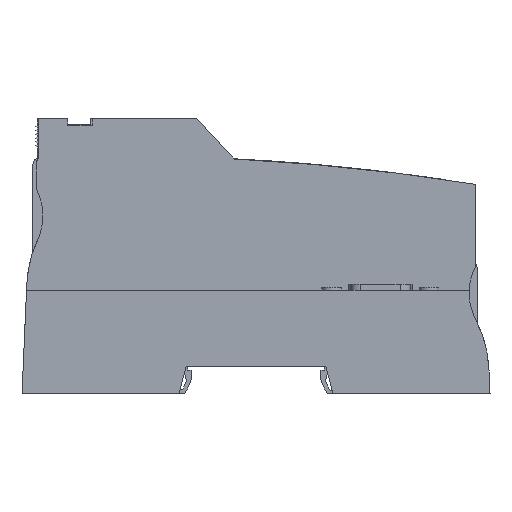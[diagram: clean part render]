
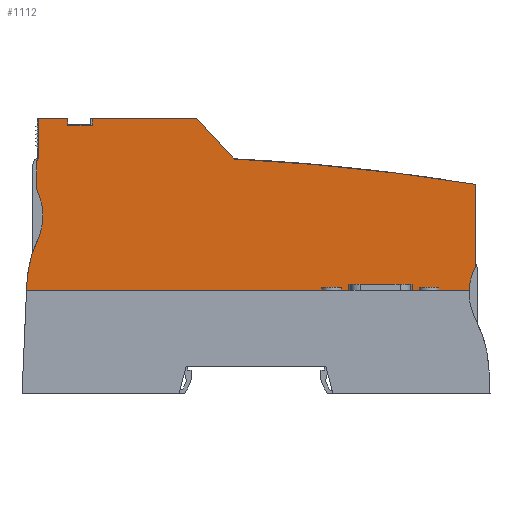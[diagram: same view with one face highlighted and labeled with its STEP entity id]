
A CAD part, left-side view. The second image highlights one B-rep face of the part: STEP entity #1112.
In plain terms, the highlighted planar face has unit normal (-1, 0, 0) as drawn and (0, 0, -1) by its records, which use the part's own axes.
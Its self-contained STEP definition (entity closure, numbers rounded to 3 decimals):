
#1112 = ADVANCED_FACE( 'NONE', ( #2251 ), #2252, .T. );
#2251 = FACE_OUTER_BOUND( '', #3763, .T. );
#2252 = PLANE( '', #3764 );
#3763 = EDGE_LOOP( '', ( #7078, #7079, #7080, #7081, #7082, #7083, #7084, #7085, #7086, #7087, #7088, #7089, #7090, #7091, #7092, #7093 ) );
#3764 = AXIS2_PLACEMENT_3D( '', #7094, #7095, #7096 );
#7078 = ORIENTED_EDGE( '', *, *, #7409, .T. );
#7079 = ORIENTED_EDGE( '', *, *, #8380, .F. );
#7080 = ORIENTED_EDGE( '', *, *, #7833, .T. );
#7081 = ORIENTED_EDGE( '', *, *, #8081, .T. );
#7082 = ORIENTED_EDGE( '', *, *, #8285, .T. );
#7083 = ORIENTED_EDGE( '', *, *, #8296, .T. );
#7084 = ORIENTED_EDGE( '', *, *, #7816, .T. );
#7085 = ORIENTED_EDGE( '', *, *, #7830, .T. );
#7086 = ORIENTED_EDGE( '', *, *, #7433, .F. );
#7087 = ORIENTED_EDGE( '', *, *, #8251, .T. );
#7088 = ORIENTED_EDGE( '', *, *, #7122, .F. );
#7089 = ORIENTED_EDGE( '', *, *, #7749, .T. );
#7090 = ORIENTED_EDGE( '', *, *, #8144, .T. );
#7091 = ORIENTED_EDGE( '', *, *, #7344, .F. );
#7092 = ORIENTED_EDGE( '', *, *, #8362, .T. );
#7093 = ORIENTED_EDGE( '', *, *, #7695, .T. );
#7094 = CARTESIAN_POINT( '', ( 108.2, 57.02, -46.8 ) );
#7095 = DIRECTION( '', ( 0., 0., -1. ) );
#7096 = DIRECTION( '', ( 0., -1., 0. ) );
#7122 = EDGE_CURVE( 'NONE', #8455, #8457, #8458, .T. );
#7344 = EDGE_CURVE( 'NONE', #8870, #8872, #8873, .T. );
#7409 = EDGE_CURVE( 'NONE', #8983, #8981, #8984, .T. );
#7433 = EDGE_CURVE( 'NONE', #9024, #9026, #9027, .T. );
#7695 = EDGE_CURVE( 'NONE', #9452, #8983, #9453, .T. );
#7749 = EDGE_CURVE( 'NONE', #8455, #9532, #9534, .T. );
#7816 = EDGE_CURVE( 'NONE', #9638, #9640, #9642, .T. );
#7830 = EDGE_CURVE( 'NONE', #9640, #9026, #9662, .T. );
#7833 = EDGE_CURVE( 'NONE', #9667, #9665, #9668, .T. );
#8081 = EDGE_CURVE( 'NONE', #9665, #10016, #10018, .T. );
#8144 = EDGE_CURVE( 'NONE', #9532, #8872, #10101, .T. );
#8251 = EDGE_CURVE( 'NONE', #9024, #8457, #10241, .T. );
#8285 = EDGE_CURVE( 'NONE', #10016, #10278, #10280, .T. );
#8296 = EDGE_CURVE( 'NONE', #10278, #9638, #10292, .T. );
#8362 = EDGE_CURVE( 'NONE', #8870, #9452, #10359, .T. );
#8380 = EDGE_CURVE( 'NONE', #9667, #8981, #10377, .T. );
#8455 = VERTEX_POINT( 'NONE', #10459 );
#8457 = VERTEX_POINT( 'NONE', #10462 );
#8458 = LINE( '', #10463, #10464 );
#8870 = VERTEX_POINT( 'NONE', #11500 );
#8872 = VERTEX_POINT( 'NONE', #11503 );
#8873 = CIRCLE( '', #11504, 0.888 );
#8981 = VERTEX_POINT( 'NONE', #11655 );
#8983 = VERTEX_POINT( 'NONE', #11658 );
#8984 = CIRCLE( '', #11659, 30. );
#9024 = VERTEX_POINT( 'NONE', #11711 );
#9026 = VERTEX_POINT( 'NONE', #11714 );
#9027 = LINE( '', #11715, #11716 );
#9452 = VERTEX_POINT( 'NONE', #12416 );
#9453 = CIRCLE( '', #12417, 15. );
#9532 = VERTEX_POINT( 'NONE', #12529 );
#9534 = LINE( '', #12532, #12533 );
#9638 = VERTEX_POINT( 'NONE', #12689 );
#9640 = VERTEX_POINT( 'NONE', #12692 );
#9642 = LINE( '', #12695, #12696 );
#9662 = LINE( '', #12721, #12722 );
#9665 = VERTEX_POINT( 'NONE', #12725 );
#9667 = VERTEX_POINT( 'NONE', #12728 );
#9668 = LINE( '', #12729, #12730 );
#10016 = VERTEX_POINT( 'NONE', #13239 );
#10018 = CIRCLE( '', #13242, 15. );
#10101 = LINE( '', #13359, #13360 );
#10241 = LINE( '', #13572, #13573 );
#10278 = VERTEX_POINT( 'NONE', #13625 );
#10280 = LINE( '', #13628, #13629 );
#10292 = CIRCLE( '', #13645, 575. );
#10359 = LINE( '', #13735, #13736 );
#10377 = LINE( '', #13760, #13761 );
#10459 = CARTESIAN_POINT( '', ( 117.639, 84.456, -46.8 ) );
#10462 = CARTESIAN_POINT( '', ( 117.639, 82.856, -46.8 ) );
#10463 = CARTESIAN_POINT( '', ( 117.639, 83.356, -46.8 ) );
#10464 = VECTOR( '', #13835, 1000. );
#11500 = CARTESIAN_POINT( '', ( 125.591, 73.469, -46.8 ) );
#11503 = CARTESIAN_POINT( '', ( 125.076, 74.274, -46.8 ) );
#11504 = AXIS2_PLACEMENT_3D( '', #14046, #14047, #14048 );
#11655 = CARTESIAN_POINT( '', ( 128.123, 41.959, -46.8 ) );
#11658 = CARTESIAN_POINT( '', ( 125.376, 53.254, -46.8 ) );
#11659 = AXIS2_PLACEMENT_3D( '', #14111, #14112, #14113 );
#11711 = CARTESIAN_POINT( '', ( 111.314, 82.856, -46.8 ) );
#11714 = CARTESIAN_POINT( '', ( 111.314, 84.456, -46.8 ) );
#11715 = CARTESIAN_POINT( '', ( 111.314, 83.926, -46.8 ) );
#11716 = VECTOR( '', #14142, 1000. );
#12416 = CARTESIAN_POINT( '', ( 125.591, 66.305, -46.8 ) );
#12417 = AXIS2_PLACEMENT_3D( '', #14380, #14381, #14382 );
#12529 = CARTESIAN_POINT( '', ( 125.076, 84.456, -46.8 ) );
#12532 = CARTESIAN_POINT( '', ( 108.2, 84.456, -46.8 ) );
#12533 = VECTOR( '', #14453, 1000. );
#12689 = CARTESIAN_POINT( '', ( 74.979, 74.165, -46.8 ) );
#12692 = CARTESIAN_POINT( '', ( 84.576, 84.456, -46.8 ) );
#12695 = CARTESIAN_POINT( '', ( 74.979, 74.165, -46.8 ) );
#12696 = VECTOR( '', #14514, 1000. );
#12721 = CARTESIAN_POINT( '', ( 108.2, 84.456, -46.8 ) );
#12722 = VECTOR( '', #14532, 1000. );
#12725 = CARTESIAN_POINT( '', ( 14.683, 40.556, -46.8 ) );
#12728 = CARTESIAN_POINT( '', ( 128.184, 40.556, -46.8 ) );
#12729 = CARTESIAN_POINT( '', ( 108.2, 40.556, -46.8 ) );
#12730 = VECTOR( '', #14534, 1000. );
#13239 = CARTESIAN_POINT( '', ( 13.183, 46.427, -46.8 ) );
#13242 = AXIS2_PLACEMENT_3D( '', #14759, #14760, #14761 );
#13359 = CARTESIAN_POINT( '', ( 125.076, 57.02, -46.8 ) );
#13360 = VECTOR( '', #14823, 1000. );
#13572 = CARTESIAN_POINT( '', ( 108.2, 82.856, -46.8 ) );
#13573 = VECTOR( '', #14919, 1000. );
#13625 = CARTESIAN_POINT( '', ( 13.183, 67.671, -46.8 ) );
#13628 = CARTESIAN_POINT( '', ( 13.183, 57.02, -46.8 ) );
#13629 = VECTOR( '', #14942, 1000. );
#13645 = AXIS2_PLACEMENT_3D( '', #14947, #14948, #14949 );
#13735 = CARTESIAN_POINT( '', ( 125.591, 57.02, -46.8 ) );
#13736 = VECTOR( '', #14984, 1000. );
#13760 = CARTESIAN_POINT( '', ( 128.817, 26.056, -46.8 ) );
#13761 = VECTOR( '', #14991, 1000. );
#13835 = DIRECTION( '', ( 0., -1., 0. ) );
#14046 = CARTESIAN_POINT( '', ( 124.704, 73.469, -46.8 ) );
#14047 = DIRECTION( '', ( 0., 0., 1. ) );
#14048 = DIRECTION( '', ( 1., 0., 0. ) );
#14111 = CARTESIAN_POINT( '', ( 98.152, 40.651, -46.8 ) );
#14112 = DIRECTION( '', ( 0., 0., -1. ) );
#14113 = DIRECTION( '', ( 1., 0., 0. ) );
#14142 = DIRECTION( '', ( 0., 1., 0. ) );
#14380 = CARTESIAN_POINT( '', ( 138.988, 59.556, -46.8 ) );
#14381 = DIRECTION( '', ( 0., 0., 1. ) );
#14382 = DIRECTION( '', ( 1., 0., 0. ) );
#14453 = DIRECTION( '', ( 1., 0., 0. ) );
#14514 = DIRECTION( '', ( 0.682, 0.731, 0. ) );
#14532 = DIRECTION( '', ( 1., 0., 0. ) );
#14534 = DIRECTION( '', ( -1., 0., 0. ) );
#14759 = CARTESIAN_POINT( '', ( -0.301, 39.856, -46.8 ) );
#14760 = DIRECTION( '', ( 0., 0., 1. ) );
#14761 = DIRECTION( '', ( 1., 0., 0. ) );
#14823 = DIRECTION( '', ( 0., -1., 0. ) );
#14919 = DIRECTION( '', ( 1., 0., 0. ) );
#14942 = DIRECTION( '', ( 0., 1., 0. ) );
#14947 = CARTESIAN_POINT( '', ( 104.084, -500.098, -46.8 ) );
#14948 = DIRECTION( '', ( 0., 0., -1. ) );
#14949 = DIRECTION( '', ( 1., 0., 0. ) );
#14984 = DIRECTION( '', ( 0., -1., 0. ) );
#14991 = DIRECTION( '', ( -0.044, 0.999, 0. ) );
